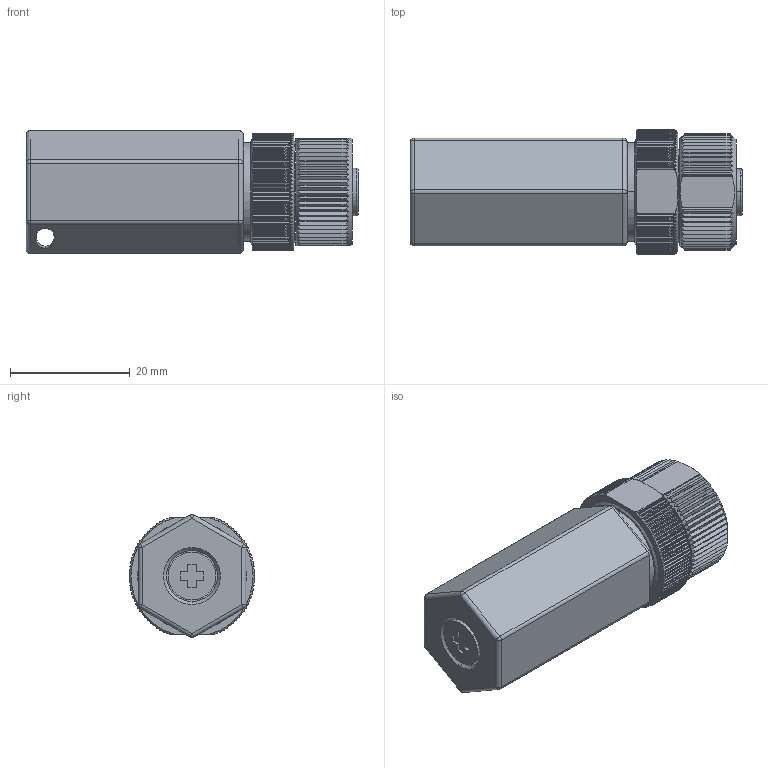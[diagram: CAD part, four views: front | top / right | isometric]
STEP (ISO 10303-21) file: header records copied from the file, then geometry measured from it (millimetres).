
FILE_DESCRIPTION((''),'2;1');
FILE_NAME('ABC-01_ASSY_ASM','2018-06-25T',('YoungMH_Yang'),('PTC'),'PRO/ENGINEER BY PARAMETRIC TECHNOLOGY CORPORATION, 2017170','PRO/ENGINEER BY PARAMETRIC TECHNOLOGY CORPORATION, 2017170','');
FILE_SCHEMA(('AUTOMOTIVE_DESIGN { 1 0 10303 214 1 1 1 1 }'));
Products named in the file (12): ABC-01_COVER; SLICON_RUBBER_D8XM4X1MM; SCREW-M_IMS_M3X6MM_SUS_BK_W-O-R; O-049RX; O-041RX; I-773PX; ASM0001_ASM; M-625SP-PF-R-MOXA_ASM; ABC-01-RING-1; ABC-01-RING-2; ABC-01-CLIP; ABC-01_ASSY_ASM
Assembly tree (11 placements, depth 4):
  ABC-01_ASSY_ASM
    ABC-01_COVER
    SLICON_RUBBER_D8XM4X1MM
    SCREW-M_IMS_M3X6MM_SUS_BK_W-O-R
    M-625SP-PF-R-MOXA_ASM
      ASM0001_ASM
        O-049RX
        O-041RX
        I-773PX
    ABC-01-RING-1
    ABC-01-RING-2
    ABC-01-CLIP
Bounding box: 55.5 x 20.99 x 20.57 mm (x, y, z)
Volume: 9071.3 mm3; surface area: 10481.8 mm2
Topology: 10 solids, 10 shells, 1398 faces, 3644 edges, 2301 vertices
Faces by surface type: cylinder 577, plane 496, bspline 202, cone 56, extrusion 32, torus 19, sphere 16
Entity records: 72301 total; most frequent: CARTESIAN_POINT 27339, ORIENTED_EDGE 7276, DIRECTION 5812, PRESENTATION_STYLE_ASSIGNMENT 3809, STYLED_ITEM 3790, CURVE_STYLE 3642, EDGE_CURVE 3638, VERTEX_POINT 2301
